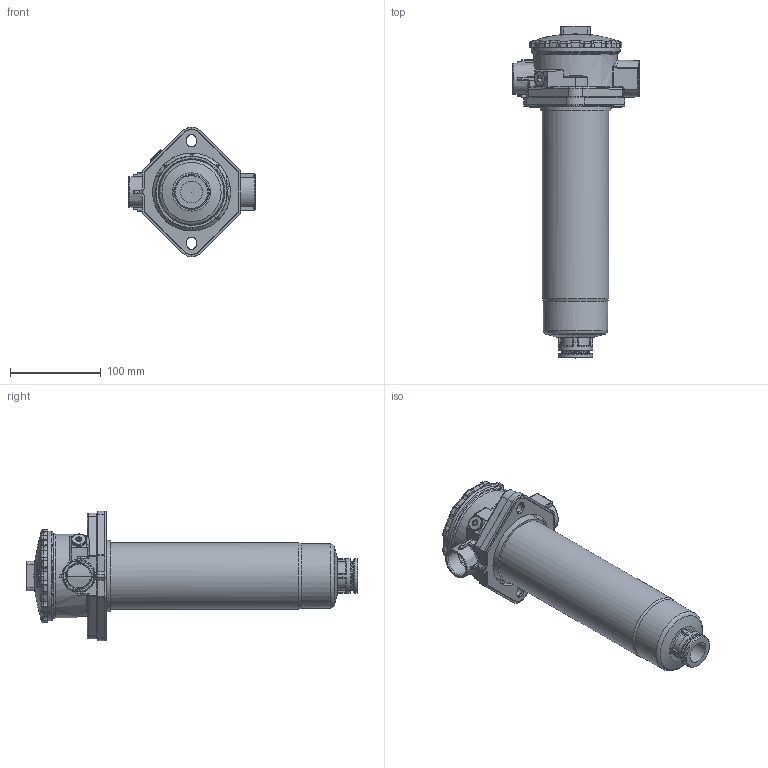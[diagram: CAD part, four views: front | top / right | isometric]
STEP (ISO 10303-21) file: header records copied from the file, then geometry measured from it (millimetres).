
FILE_DESCRIPTION((''),'2;1');
FILE_NAME('U:\Users\t.schleuter\Ruecklauffilter13667500(308008).stp','2013-04-15T08:12:35',('User'),('SDRC'),'I-DEAS Master Series 9','UNIX','Yes');
FILE_SCHEMA(('AUTOMOTIVE_DESIGN { 1 0 10303 214 1 1 1 1 }'));
Length unit declared in the file: millimetre
Products named in the file (1): 13667500(308008)
Bounding box: 139 x 365 x 142.65 mm (x, y, z)
Volume: 1672219.2 mm3; surface area: 137354.1 mm2
Topology: 1 solids, 7 shells, 1156 faces, 2957 edges, 1788 vertices
Faces by surface type: bspline 1156
Entity records: 42145 total; most frequent: CARTESIAN_POINT 25589, ORIENTED_EDGE 5802, EDGE_CURVE 2901, VERTEX_POINT 1787, B_SPLINE_CURVE_WITH_KNOTS 1631, EDGE_LOOP 1190, FACE_OUTER_BOUND 1156, ADVANCED_FACE 1156
